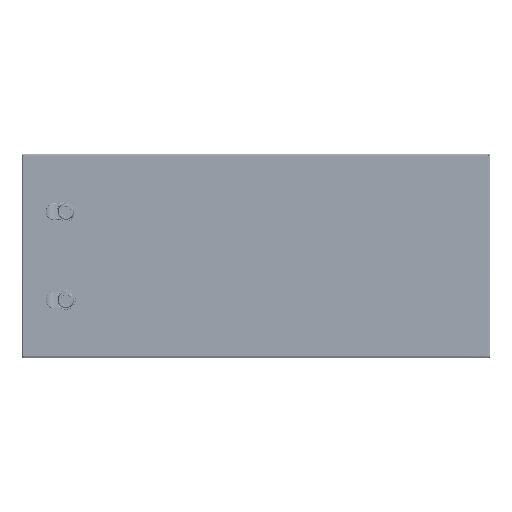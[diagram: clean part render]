
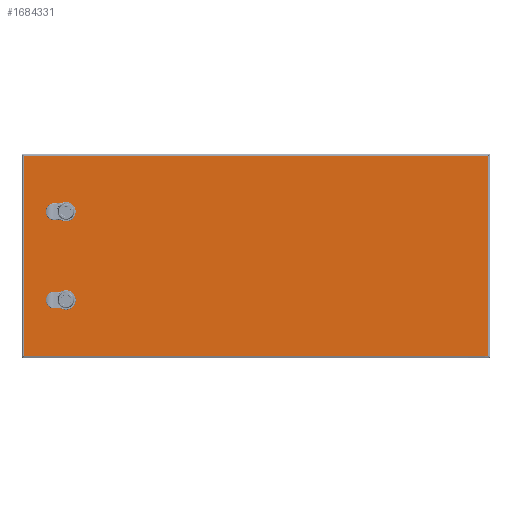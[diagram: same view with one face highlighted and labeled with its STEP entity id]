
A CAD part, top view. The second image highlights one B-rep face of the part: STEP entity #1684331.
In plain terms, the highlighted planar face has unit normal (0, 0, 1).
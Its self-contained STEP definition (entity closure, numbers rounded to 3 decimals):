
#1678461=CARTESIAN_POINT(' ',(389.389,172.733,333.103));
#1678462=VERTEX_POINT(' ',#1678461);
#1679126=CARTESIAN_POINT(' ',(389.389,-166.667,333.103));
#1679127=VERTEX_POINT(' ',#1679126);
#1679971=CARTESIAN_POINT(' ',(389.389,172.733,333.103));
#1679976=DIRECTION(' ',(0.,-1.,0.));
#1679981=VECTOR(' ',#1679976,1.);
#1679986=LINE('',#1679971,#1679981);
#1679991=EDGE_CURVE(' ',#1678462,#1679127,#1679986,.T.);
#1681976=CARTESIAN_POINT(' ',(-399.011,-166.667,333.103));
#1681977=VERTEX_POINT(' ',#1681976);
#1682516=CARTESIAN_POINT(' ',(-399.011,172.733,333.103));
#1682517=VERTEX_POINT(' ',#1682516);
#1684201=DIRECTION(' ',(-0.,-0.,1.));
#1684206=CARTESIAN_POINT(' ',(389.389,-166.667,333.103));
#1684211=DIRECTION(' ',(0.,1.,0.));
#1684216=AXIS2_PLACEMENT_3D(' ',#1684206,#1684201,#1684211);
#1684221=PLANE('NONE',#1684216);
#1684226=CARTESIAN_POINT(' ',(-399.011,-166.667,333.103));
#1684231=DIRECTION(' ',(1.,0.,0.));
#1684236=VECTOR(' ',#1684231,1.);
#1684241=LINE('',#1684226,#1684236);
#1684246=EDGE_CURVE(' ',#1681977,#1679127,#1684241,.T.);
#1684251=ORIENTED_EDGE(' ',*,*,#1684246,.T.);
#1684256=ORIENTED_EDGE(' ',*,*,#1679991,.F.);
#1684261=CARTESIAN_POINT(' ',(389.389,172.733,333.103));
#1684266=DIRECTION(' ',(-1.,0.,0.));
#1684271=VECTOR(' ',#1684266,1.);
#1684276=LINE('',#1684261,#1684271);
#1684281=EDGE_CURVE(' ',#1678462,#1682517,#1684276,.T.);
#1684286=ORIENTED_EDGE(' ',*,*,#1684281,.T.);
#1684291=CARTESIAN_POINT(' ',(-399.011,172.733,333.103));
#1684296=DIRECTION(' ',(0.,-1.,0.));
#1684301=VECTOR(' ',#1684296,1.);
#1684306=LINE('',#1684291,#1684301);
#1684311=EDGE_CURVE(' ',#1682517,#1681977,#1684306,.T.);
#1684316=ORIENTED_EDGE(' ',*,*,#1684311,.T.);
#1684321=EDGE_LOOP(' ',(#1684251,#1684256,#1684286,#1684316));
#1684326=FACE_OUTER_BOUND(' ',#1684321,.T.);
#1684331=ADVANCED_FACE('NONE',(#1684326),#1684221,.T.);
